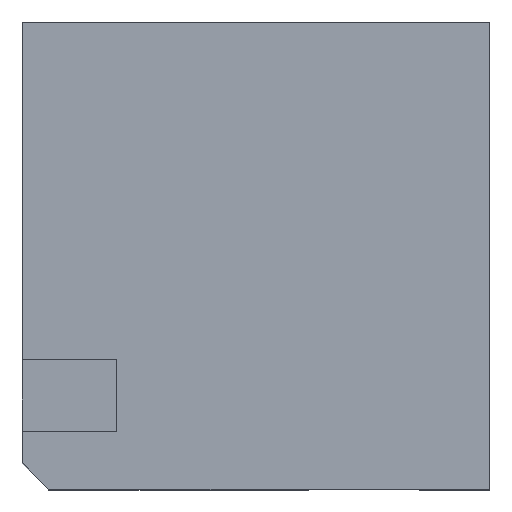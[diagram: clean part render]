
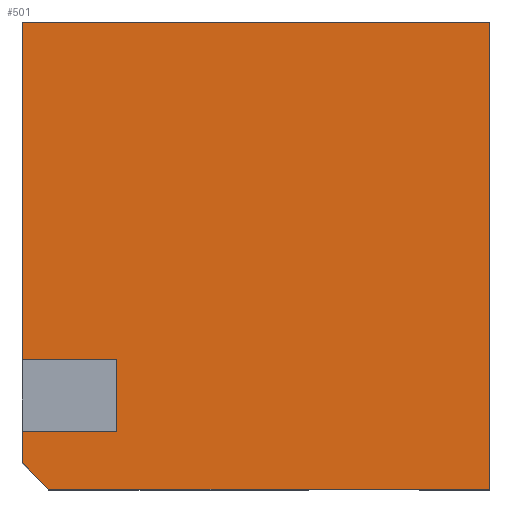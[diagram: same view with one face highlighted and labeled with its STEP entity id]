
A CAD part, top view. The second image highlights one B-rep face of the part: STEP entity #501.
In plain terms, the highlighted planar face has unit normal (0, 0, 1).
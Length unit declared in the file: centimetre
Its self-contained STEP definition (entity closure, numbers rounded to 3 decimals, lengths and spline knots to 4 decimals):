
#78 = CARTESIAN_POINT ( 'NONE',  ( 0., 1000., 1000. ) ) ;
#89 = ORIENTED_EDGE ( 'NONE', *, *, #1131, .T. ) ;
#93 = VECTOR ( 'NONE', #981, 100. ) ;
#94 = DIRECTION ( 'NONE',  ( -1., 0., 0. ) ) ;
#121 = DIRECTION ( 'NONE',  ( 0., 1., 0. ) ) ;
#138 = ORIENTED_EDGE ( 'NONE', *, *, #841, .F. ) ;
#183 = ORIENTED_EDGE ( 'NONE', *, *, #1145, .T. ) ;
#196 = LINE ( 'NONE', #588, #93 ) ;
#220 = DIRECTION ( 'NONE',  ( 1., 0., 0. ) ) ;
#229 = DIRECTION ( 'NONE',  ( -1., 0., 0. ) ) ;
#241 = ORIENTED_EDGE ( 'NONE', *, *, #308, .T. ) ;
#273 = DIRECTION ( 'NONE',  ( 0., 1., 0. ) ) ;
#291 = VECTOR ( 'NONE', #229, 100. ) ;
#308 = EDGE_CURVE ( 'NONE', #1172, #1049, #946, .T. ) ;
#335 = DIRECTION ( 'NONE',  ( 0.707, -0.707, 0. ) ) ;
#343 = EDGE_LOOP ( 'NONE', ( #800, #138, #89, #183, #703, #796, #671, #597, #241 ) ) ;
#345 = EDGE_CURVE ( 'NONE', #984, #1049, #669, .T. ) ;
#355 = CARTESIAN_POINT ( 'NONE',  ( 202.184, 124.3598, 1000. ) ) ;
#369 = DIRECTION ( 'NONE',  ( -1., 0., 0. ) ) ;
#381 = CARTESIAN_POINT ( 'NONE',  ( 0., 277.1935, 1000. ) ) ;
#396 = VECTOR ( 'NONE', #94, 100. ) ;
#422 = LINE ( 'NONE', #892, #427 ) ;
#427 = VECTOR ( 'NONE', #121, 100. ) ;
#440 = EDGE_CURVE ( 'NONE', #468, #847, #422, .T. ) ;
#452 = CARTESIAN_POINT ( 'NONE',  ( 0., 1000., 1000. ) ) ;
#454 = VECTOR ( 'NONE', #1022, 100. ) ;
#464 = LINE ( 'NONE', #1060, #396 ) ;
#468 = VERTEX_POINT ( 'NONE', #616 ) ;
#501 = ADVANCED_FACE ( 'NONE', ( #1195 ), #1092, .T. ) ;
#514 = CARTESIAN_POINT ( 'NONE',  ( 0., 0., 1000. ) ) ;
#530 = LINE ( 'NONE', #1207, #661 ) ;
#588 = CARTESIAN_POINT ( 'NONE',  ( 0., 1000., 1000. ) ) ;
#597 = ORIENTED_EDGE ( 'NONE', *, *, #751, .T. ) ;
#603 = VECTOR ( 'NONE', #273, 100. ) ;
#604 = CARTESIAN_POINT ( 'NONE',  ( 0., 124.3598, 1000. ) ) ;
#616 = CARTESIAN_POINT ( 'NONE',  ( 1000., 0., 1000. ) ) ;
#645 = EDGE_CURVE ( 'NONE', #1100, #1099, #530, .T. ) ;
#656 = VECTOR ( 'NONE', #839, 100. ) ;
#661 = VECTOR ( 'NONE', #335, 100. ) ;
#669 = LINE ( 'NONE', #1061, #968 ) ;
#671 = ORIENTED_EDGE ( 'NONE', *, *, #440, .T. ) ;
#703 = ORIENTED_EDGE ( 'NONE', *, *, #645, .T. ) ;
#708 = DIRECTION ( 'NONE',  ( 0., 0., 1. ) ) ;
#739 = CARTESIAN_POINT ( 'NONE',  ( 0., 0., 1000. ) ) ;
#751 = EDGE_CURVE ( 'NONE', #847, #1172, #932, .T. ) ;
#756 = AXIS2_PLACEMENT_3D ( 'NONE', #514, #708, #220 ) ;
#796 = ORIENTED_EDGE ( 'NONE', *, *, #1242, .T. ) ;
#800 = ORIENTED_EDGE ( 'NONE', *, *, #345, .F. ) ;
#839 = DIRECTION ( 'NONE',  ( 0., -1., 0. ) ) ;
#841 = EDGE_CURVE ( 'NONE', #1078, #984, #1046, .T. ) ;
#847 = VERTEX_POINT ( 'NONE', #953 ) ;
#889 = CARTESIAN_POINT ( 'NONE',  ( 56.1864, 0., 1000. ) ) ;
#892 = CARTESIAN_POINT ( 'NONE',  ( 1000., 1000., 1000. ) ) ;
#932 = LINE ( 'NONE', #1110, #291 ) ;
#946 = LINE ( 'NONE', #452, #656 ) ;
#953 = CARTESIAN_POINT ( 'NONE',  ( 1000., 1000., 1000. ) ) ;
#968 = VECTOR ( 'NONE', #369, 100. ) ;
#981 = DIRECTION ( 'NONE',  ( 0., -1., 0. ) ) ;
#984 = VERTEX_POINT ( 'NONE', #1262 ) ;
#1022 = DIRECTION ( 'NONE',  ( 1., 0., 0. ) ) ;
#1046 = LINE ( 'NONE', #355, #603 ) ;
#1049 = VERTEX_POINT ( 'NONE', #381 ) ;
#1060 = CARTESIAN_POINT ( 'NONE',  ( 202.184, 124.3598, 1000. ) ) ;
#1061 = CARTESIAN_POINT ( 'NONE',  ( 202.184, 277.1935, 1000. ) ) ;
#1078 = VERTEX_POINT ( 'NONE', #1175 ) ;
#1092 = PLANE ( 'NONE',  #756 ) ;
#1099 = VERTEX_POINT ( 'NONE', #889 ) ;
#1100 = VERTEX_POINT ( 'NONE', #1260 ) ;
#1110 = CARTESIAN_POINT ( 'NONE',  ( 0., 1000., 1000. ) ) ;
#1127 = LINE ( 'NONE', #739, #454 ) ;
#1131 = EDGE_CURVE ( 'NONE', #1078, #1208, #464, .T. ) ;
#1145 = EDGE_CURVE ( 'NONE', #1208, #1100, #196, .T. ) ;
#1172 = VERTEX_POINT ( 'NONE', #78 ) ;
#1175 = CARTESIAN_POINT ( 'NONE',  ( 202.184, 124.3598, 1000. ) ) ;
#1195 = FACE_OUTER_BOUND ( 'NONE', #343, .T. ) ;
#1207 = CARTESIAN_POINT ( 'NONE',  ( 28.0932, 28.0932, 1000. ) ) ;
#1208 = VERTEX_POINT ( 'NONE', #604 ) ;
#1242 = EDGE_CURVE ( 'NONE', #1099, #468, #1127, .T. ) ;
#1260 = CARTESIAN_POINT ( 'NONE',  ( 0., 56.1864, 1000. ) ) ;
#1262 = CARTESIAN_POINT ( 'NONE',  ( 202.184, 277.1935, 1000. ) ) ;
